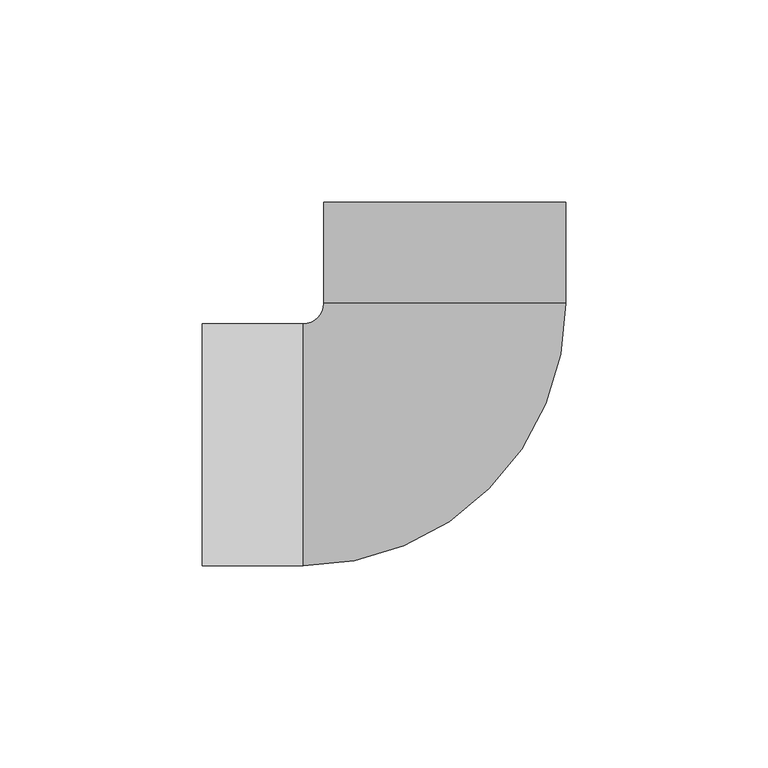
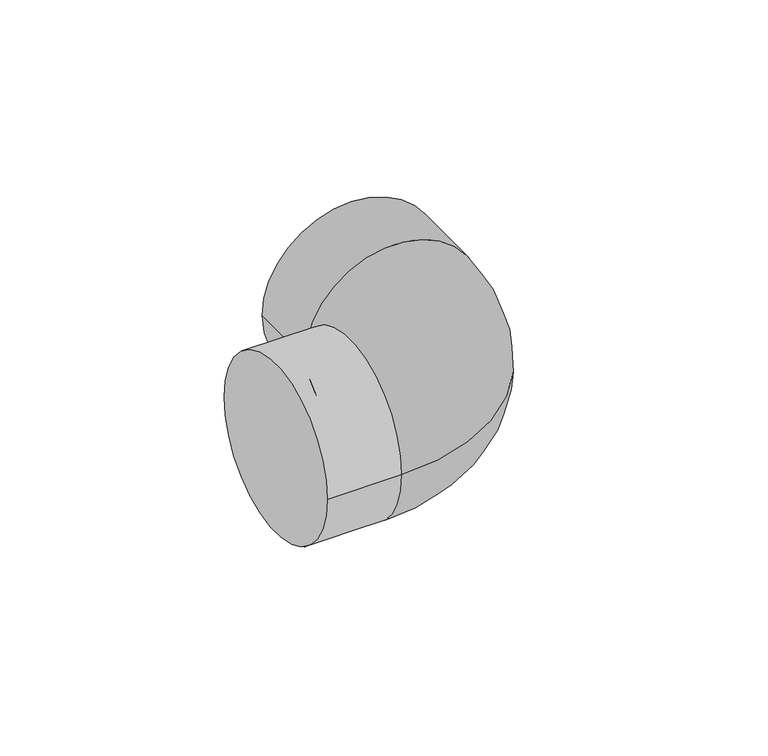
"""IFC4 building model written with IfcOpenShell, lengths in millimetres: pipe fitting geometry, 01101002 : Codos 90º."""

from ifc_helpers import new_model, si_unit, point, frame, origin, place, context, project, spatial, circle_curve, ellipse_curve, trimmed, source, transform, mapped, element, save
from ifc_brep_helpers import plane_surface, cylinder_surface, revolved_surface, advanced_brep


def pipe_fitting_851df4dc(model_context):
    return source(origin(), model_context, "Body", "AdvancedBrep", [
        advanced_brep(
        [(-35.0, -29.925, 0.0), (29.925, 35.0, 0.0), (-29.925, 35.0, 0.0), (-35.0, 29.925, 0.0), (-29.925, 60.0, 0.0), (29.925, 60.0, 0.0), (-60.0, 29.925, 0.0), (-60.0, -29.925, 0.0)],
        [
            (0, 1, circle_curve(frame((-35.0, 35.0, 0.0), z_axis=(0.0, 0.0, 1.0), x_axis=(1.0, 0.0, 0.0)), 64.925)),
            (1, 2, circle_curve(frame((0.0, 35.0, 0.0), z_axis=(0.0, -1.0, 0.0), x_axis=(1.0, 0.0, 0.0)), 29.925)),
            (2, 3, circle_curve(frame((-35.0, 35.0, 0.0), z_axis=(0.0, 0.0, -1.0), x_axis=(1.0, 0.0, 0.0)), 5.075)),
            (3, 0, circle_curve(frame((-35.0, 0.0, 0.0), z_axis=(1.0, 0.0, 0.0), x_axis=(0.0, -1.0, 0.0)), 29.925)),
            (2, 1, circle_curve(frame((0.0, 35.0, 0.0), z_axis=(0.0, -1.0, 0.0), x_axis=(1.0, 0.0, 0.0)), 29.925)),
            (0, 3, circle_curve(frame((-35.0, 0.0, 0.0), z_axis=(1.0, 0.0, 0.0), x_axis=(0.0, -1.0, 0.0)), 29.925)),
            (4, 5, circle_curve(frame((0.0, 60.0, 0.0), z_axis=(0.0, 1.0, 0.0), x_axis=(1.0, 0.0, 0.0)), 29.925)),
            (5, 4, circle_curve(frame((0.0, 60.0, 0.0), z_axis=(0.0, 1.0, 0.0), x_axis=(1.0, 0.0, 0.0)), 29.925)),
            (6, 7, circle_curve(frame((-60.0, 0.0, 0.0), z_axis=(-1.0, 0.0, 0.0), x_axis=(0.0, -1.0, 0.0)), 29.925)),
            (7, 6, circle_curve(frame((-60.0, 0.0, 0.0), z_axis=(-1.0, 0.0, 0.0), x_axis=(0.0, -1.0, 0.0)), 29.925)),
            (3, 6),
            (7, 0),
            (4, 2),
            (1, 5),
        ],
        [
            revolved_surface(trimmed(ellipse_curve(frame((0.0, 35.0, 0.0), z_axis=(0.0, 1.0, 0.0), x_axis=(1.0, 0.0, 0.0)), 29.925, 29.925), [point((-29.925, 35.0, 0.0))], [point((29.925, 35.0, 0.0))], True, "CARTESIAN"), (-35.0, 35.0, 0.0), (0.0, 0.0, -1.0)),
            revolved_surface(trimmed(ellipse_curve(frame((0.0, 35.0, 0.0), z_axis=(0.0, 1.0, 0.0), x_axis=(1.0, 0.0, 0.0)), 29.925, 29.925), [point((29.925, 35.0, 0.0))], [point((-29.925, 35.0, 0.0))], True, "CARTESIAN"), (-35.0, 35.0, 0.0), (0.0, 0.0, -1.0)),
            plane_surface(frame((0.0, 60.0, 0.0), z_axis=(0.0, 1.0, 0.0), x_axis=(0.0, 0.0, 1.0))),
            plane_surface(frame((-60.0, 0.0, 0.0), z_axis=(-1.0, 0.0, 0.0), x_axis=(0.0, 0.0, 1.0))),
            cylinder_surface(frame((-35.0, 0.0, 0.0), z_axis=(1.0, 0.0, 0.0), x_axis=(0.0, -1.0, 0.0)), 29.925),
            cylinder_surface(frame((0.0, 60.0, 0.0), z_axis=(0.0, 1.0, 0.0), x_axis=(1.0, 0.0, 0.0)), 29.925),
        ],
        [
            (0, [[1, 2, 3, 4]]),
            (1, [[-3, 5, -1, 6]]),
            (2, [[7, 8]]),
            (3, [[9, 10]]),
            (4, [[-4, 11, -10, 12]]),
            (4, [[-6, -12, -9, -11]]),
            (5, [[-7, 13, -2, 14]]),
            (5, [[-8, -14, -5, -13]]),
        ],
    ),
    ])


if __name__ == "__main__":
    model = new_model("IFC4")
    model_context = context("Model", 3, world=origin())
    ifc_project = project(units=[si_unit("LENGTHUNIT", "METRE", prefix="MILLI")], contexts=[model_context])
    site = spatial("IfcSite", under=ifc_project)
    building = spatial("IfcBuilding", under=site)
    placement = place(None, origin())
    pipe_fitting_shape = pipe_fitting_851df4dc(model_context)
    element("IfcPipeFitting", 1, ObjectType="01101002 : Codos 90º", at=placement, inside=building, context=model_context, shape_type="MappedRepresentation", body=[
        mapped(pipe_fitting_shape, transform((0.0, 0.0, 0.0), x_axis=(1.0, 0.0, 0.0), y_axis=(0.0, 1.0, 0.0), z_axis=(0.0, 0.0, 1.0))),
    ])
    save(model, "model.ifc")
